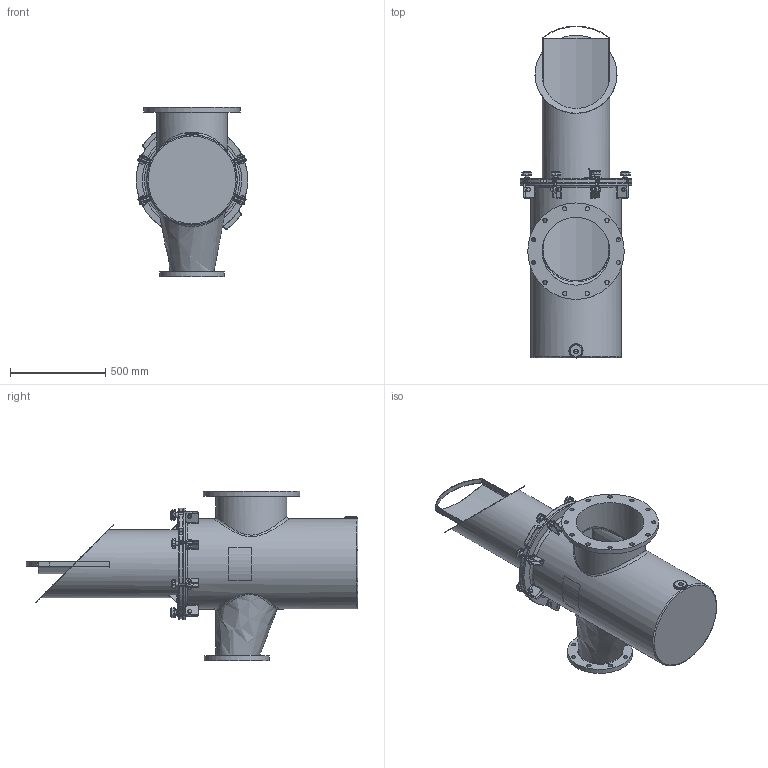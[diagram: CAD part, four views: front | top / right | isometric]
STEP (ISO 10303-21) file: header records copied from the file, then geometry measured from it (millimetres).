
FILE_DESCRIPTION(/* description */ ('350MM X 200MM FIBERGLASS STRAINER BODY'),/* implementation_level */ '2;1');
FILE_NAME(/* name */ 'C:\Users\r.kommineni.ext\Desktop\NB\CAD\Workspace\FG Reducing Strainer\Guardian FG Reducing H&L Strainer (Metric)_CLEARANCE VOLUME\STRAINER H&L 350MM X 200MM.stp',/* time_stamp */ '2017-06-09T13:32:50-04:00',/* author */ ('r.kommineni.ext'),/* organization */ (''),/* preprocessor_version */ 'ST-DEVELOPER v16.1',/* originating_system */ 'Autodesk Inventor 2016',/* authorisation */ '');
FILE_SCHEMA (('CONFIG_CONTROL_DESIGN'));
Length unit declared in the file: inch
Products named in the file (25): NBFGBODY14X08MM; 150NBCVR18R2; 150NBGSK18R1; Perforated Basket 18in; Bride (Ring) 18in; Baffle 18in; Handle 18in; Bottom Strainer 18in; BRACESTRCVR18_Welds; BRACE (BASE) FOR 18 BODY; BRACE (PROJ) FOR 18 BODY; Bumper; BRACESTRCVR18; Nut- 1_2  UNC; Bolt-1_2 x 1 1_2  UNC; EyeBolt; Washer; Knob M10; Securing Assembly For FG  with Brace; Securing Assembly For FG without Brace; Label for 18.625 inch (Right); Label for 18.625 inch (Left); NBBSK14T316_clearance; NBBSK14T316_clearance_1; STRAINER H&L 350MM X 200MM
Assembly tree (40 placements, depth 3):
  STRAINER H&L 350MM X 200MM
    NBFGBODY14X08MM
    150NBCVR18R2
    150NBGSK18R1
    NBBSK14T316_clearance_1
      Perforated Basket 18in
      Bride (Ring) 18in
      Baffle 18in
      Handle 18in
      Bottom Strainer 18in
      NBBSK14T316_clearance
    BRACESTRCVR18
      BRACESTRCVR18_Welds
      BRACE (BASE) FOR 18 BODY
      BRACE (PROJ) FOR 18 BODY
      Bumper  x6
    Securing Assembly For FG  with Brace  x2
      Nut- 1_2  UNC
      Bolt-1_2 x 1 1_2  UNC
      EyeBolt
      Washer
      Knob M10
    Securing Assembly For FG without Brace  x6
      Nut- 1_2  UNC
      Bolt-1_2 x 1 1_2  UNC
      EyeBolt
      Washer
      Knob M10
    Label for 18.625 inch (Right)
    Label for 18.625 inch (Left)
Bounding box: 584.2 x 1739.9 x 889 mm (x, y, z)
Volume: 28718296.4 mm3; surface area: 8461450.2 mm2
Topology: 67 solids, 70 shells, 1855 faces, 4251 edges, 2521 vertices
Faces by surface type: cylinder 681, plane 524, cone 184, torus 168, sphere 158, bspline 140
Full cylindrical faces by diameter (mm): 3.175 x11, 6.35 x2, 8.382 x8, 9.525 x16, 10.592 x8, 12.7 x8, 15.875 x16, 19 x16, 19.05 x8, 22.098 x20, 22.809 x1, 31.75 x8, 68.263 x1, 340.36 x1, 352.425 x2, 355.6 x3, 358.14 x1, 371.475 x1, 457.2 x3, 463.55 x1, 473.075 x1, 505.46 x1, 520.7 x1, 527.05 x1
Entity records: 38871 total; most frequent: CARTESIAN_POINT 14840, DIRECTION 4969, ORIENTED_EDGE 4523, EDGE_CURVE 2286, AXIS2_PLACEMENT_3D 2020, VERTEX_POINT 1437, EDGE_LOOP 1220, ADVANCED_FACE 1005
